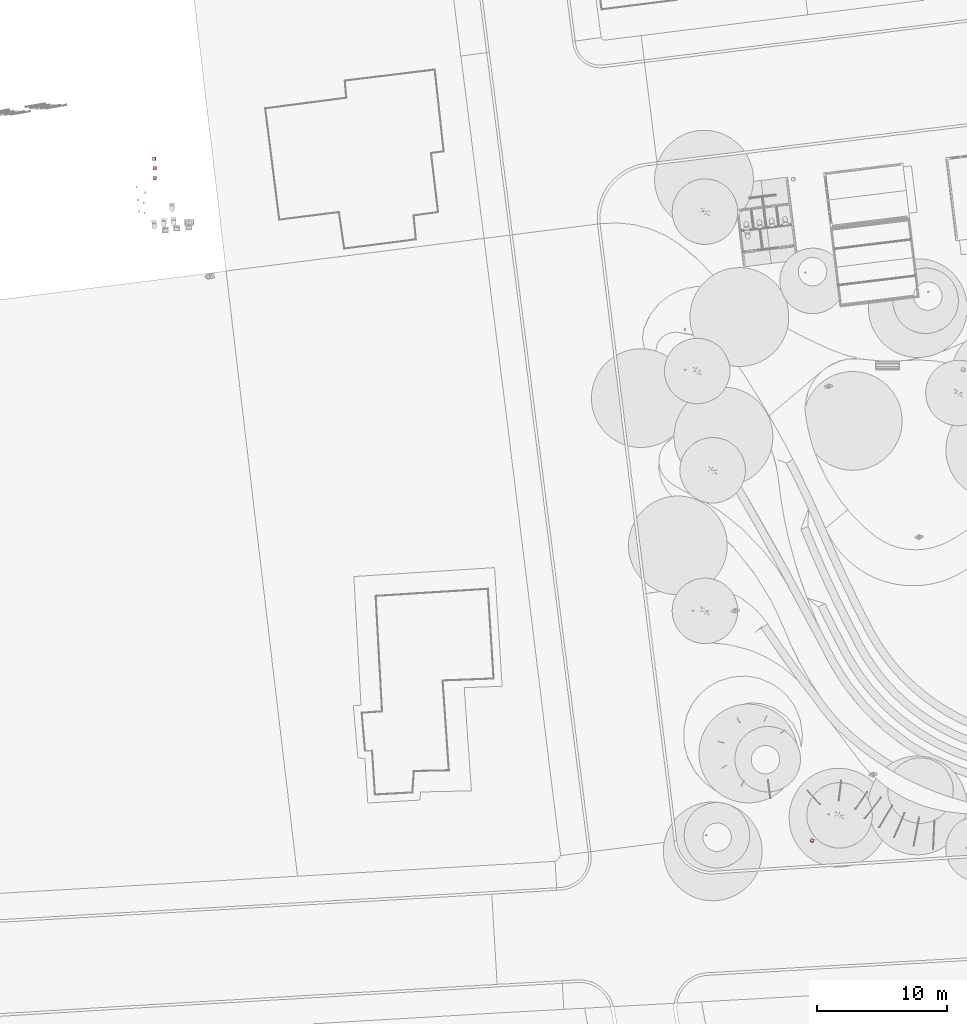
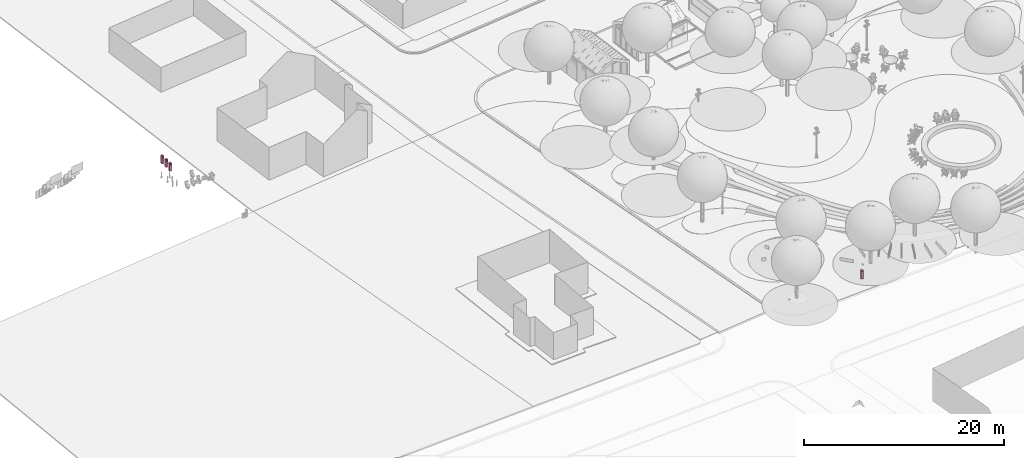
# One storey, part 56 of 75: 4 furnishings.
"""IFC2X3 building model written with IfcOpenShell, lengths in metres."""

from ifc_helpers import new_model, entity, si_unit, converted_unit, derived_unit, direction, frame, frame_2d, origin, origin_2d_with_axis, place, context, subcontext, project, spatial, polyline, circle_curve, parameter, trimmed, segment, composite_curve, rectangle, circle, hollow_circle, outline, extrude, source, transform, mapped, material, material_list, type_object, type_shapes, element, save


model = new_model("IFC2X3")

# Units and contexts
model_context = context("Model", 3, precision=1e-05, world=origin(), true_north=direction((6.123031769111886e-17, 1.0)))
body_context = subcontext(model_context, "Body", "Model", "MODEL_VIEW")
ifc_project = project(units=[si_unit("LENGTHUNIT", "METRE"), si_unit("AREAUNIT", "SQUARE_METRE"), si_unit("VOLUMEUNIT", "CUBIC_METRE"), converted_unit("PLANEANGLEUNIT", "DEGREE", entity("IfcRatioMeasure", 0.017453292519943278), si_unit("PLANEANGLEUNIT", "RADIAN"), dimensions=[0, 0, 0, 0, 0, 0, 0]), si_unit("MASSUNIT", "GRAM", prefix="KILO"), derived_unit("MASSDENSITYUNIT", [(si_unit("MASSUNIT", "GRAM", prefix="KILO"), 1), (si_unit("LENGTHUNIT", "METRE"), -3)]), derived_unit("IONCONCENTRATIONUNIT", [(si_unit("MASSUNIT", "GRAM", prefix="KILO"), 1), (si_unit("LENGTHUNIT", "METRE"), -3)]), derived_unit("MOMENTOFINERTIAUNIT", [(si_unit("LENGTHUNIT", "METRE"), 4)]), si_unit("TIMEUNIT", "SECOND"), si_unit("FREQUENCYUNIT", "HERTZ"), si_unit("THERMODYNAMICTEMPERATUREUNIT", "DEGREE_CELSIUS"), derived_unit("THERMALTRANSMITTANCEUNIT", [(si_unit("MASSUNIT", "GRAM", prefix="KILO"), 1), (si_unit("THERMODYNAMICTEMPERATUREUNIT", "KELVIN"), -1), (si_unit("TIMEUNIT", "SECOND"), -3)]), derived_unit("THERMALCONDUCTANCEUNIT", [(si_unit("MASSUNIT", "GRAM", prefix="KILO"), 1), (si_unit("THERMODYNAMICTEMPERATUREUNIT", "KELVIN"), -1), (si_unit("TIMEUNIT", "SECOND"), -3), (si_unit("LENGTHUNIT", "METRE"), 1)]), derived_unit("VOLUMETRICFLOWRATEUNIT", [(si_unit("LENGTHUNIT", "METRE"), 3), (si_unit("TIMEUNIT", "SECOND"), -1)]), derived_unit("MASSFLOWRATEUNIT", [(si_unit("MASSUNIT", "GRAM", prefix="KILO"), 1), (si_unit("TIMEUNIT", "SECOND"), -1)]), derived_unit("ROTATIONALFREQUENCYUNIT", [(si_unit("TIMEUNIT", "SECOND"), -1)]), si_unit("ELECTRICCURRENTUNIT", "AMPERE"), si_unit("ELECTRICVOLTAGEUNIT", "VOLT"), si_unit("POWERUNIT", "WATT"), si_unit("FORCEUNIT", "NEWTON", prefix="KILO"), si_unit("ILLUMINANCEUNIT", "LUX"), si_unit("LUMINOUSFLUXUNIT", "LUMEN"), si_unit("LUMINOUSINTENSITYUNIT", "CANDELA"), derived_unit("USERDEFINED", [(si_unit("MASSUNIT", "GRAM", prefix="KILO"), -1), (si_unit("LENGTHUNIT", "METRE"), -2), (si_unit("TIMEUNIT", "SECOND"), 3), (si_unit("LUMINOUSFLUXUNIT", "LUMEN"), 1)]), derived_unit("USERDEFINED", [(si_unit("MASSUNIT", "GRAM", prefix="KILO"), 1), (si_unit("TIMEUNIT", "SECOND"), -3), (si_unit("LENGTHUNIT", "METRE"), 3), (si_unit("ELECTRICCURRENTUNIT", "AMPERE"), -2)]), derived_unit("SOUNDPOWERUNIT", [(si_unit("MASSUNIT", "GRAM", prefix="KILO"), 1), (si_unit("TIMEUNIT", "SECOND"), -3), (si_unit("LENGTHUNIT", "METRE"), 2)]), derived_unit("SOUNDPRESSUREUNIT", [(si_unit("MASSUNIT", "GRAM", prefix="KILO"), 1), (si_unit("LENGTHUNIT", "METRE"), -1), (si_unit("TIMEUNIT", "SECOND"), -2)]), derived_unit("LINEARVELOCITYUNIT", [(si_unit("LENGTHUNIT", "METRE"), 1), (si_unit("TIMEUNIT", "SECOND"), -1)]), si_unit("PRESSUREUNIT", "PASCAL"), derived_unit("USERDEFINED", [(si_unit("MASSUNIT", "GRAM", prefix="KILO"), 1), (si_unit("LENGTHUNIT", "METRE"), -2), (si_unit("TIMEUNIT", "SECOND"), -2)]), derived_unit("LINEARFORCEUNIT", [(si_unit("MASSUNIT", "GRAM", prefix="KILO"), 1), (si_unit("TIMEUNIT", "SECOND"), -2)]), derived_unit("PLANARFORCEUNIT", [(si_unit("MASSUNIT", "GRAM", prefix="KILO"), 1), (si_unit("LENGTHUNIT", "METRE"), -1), (si_unit("TIMEUNIT", "SECOND"), -2)]), derived_unit("SPECIFICHEATCAPACITYUNIT", [(si_unit("THERMODYNAMICTEMPERATUREUNIT", "KELVIN"), -1), (si_unit("LENGTHUNIT", "METRE"), 2), (si_unit("TIMEUNIT", "SECOND"), -2)]), derived_unit("HEATINGVALUEUNIT", [(si_unit("LENGTHUNIT", "METRE"), 2), (si_unit("TIMEUNIT", "SECOND"), -2)]), derived_unit("VAPORPERMEABILITYUNIT", [(si_unit("LENGTHUNIT", "METRE"), -1), (si_unit("TIMEUNIT", "SECOND"), 1)]), derived_unit("DYNAMICVISCOSITYUNIT", [(si_unit("MASSUNIT", "GRAM", prefix="KILO"), 1), (si_unit("TIMEUNIT", "SECOND"), -1), (si_unit("LENGTHUNIT", "METRE"), -1)]), derived_unit("THERMALEXPANSIONCOEFFICIENTUNIT", [(si_unit("THERMODYNAMICTEMPERATUREUNIT", "KELVIN"), -1)]), derived_unit("MODULUSOFELASTICITYUNIT", [(si_unit("MASSUNIT", "GRAM", prefix="KILO"), 1), (si_unit("LENGTHUNIT", "METRE"), -1), (si_unit("TIMEUNIT", "SECOND"), -2)]), derived_unit("ISOTHERMALMOISTURECAPACITYUNIT", [(si_unit("LENGTHUNIT", "METRE"), 3), (si_unit("MASSUNIT", "GRAM", prefix="KILO"), -1)]), derived_unit("MOISTUREDIFFUSIVITYUNIT", [(si_unit("TIMEUNIT", "SECOND"), -1), (si_unit("LENGTHUNIT", "METRE"), 2)])], contexts=[model_context])

# Site, building, storey
site_placement = place(None, origin())
site = spatial("IfcSite", under=ifc_project, at=site_placement, Name="Default", CompositionType="ELEMENT")
building_placement = place(site_placement, origin())
building = spatial("IfcBuilding", under=site, at=building_placement, Name="Projeto", CompositionType="ELEMENT")
storey_placement = place(building_placement, origin())
storey = spatial("IfcBuildingStorey", under=building, at=storey_placement, Name="Nível 1", CompositionType="ELEMENT", Elevation=0.0)

# Furnishings
ifc_material_1 = material(Name="Metal")
ifc_material_2 = material(Name="Aço")
ifc_material_3 = material(Name="Metal(1)")
ifc_material_list = material_list([ifc_material_1, ifc_material_2, ifc_material_3])
furniture_type = type_object("IfcFurnitureType", Name="CS110:Lixeira Simples", material=ifc_material_list)
shared_shape = source(origin(), body_context, "Body", "SweptSolid", [
    extrude(rectangle(XDim=0.2552463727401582, YDim=0.25525227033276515, at=origin_2d_with_axis()), frame((0.011098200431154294, -0.014615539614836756, 0.00010118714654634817), z_axis=(0.0, 0.0, 1.0), x_axis=(0.0, 1.0, 0.0)), (0.0, 0.0, 1.0), 0.007939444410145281),
    extrude(rectangle(XDim=0.002807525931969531, YDim=0.2600000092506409, at=origin_2d_with_axis()), frame((0.011160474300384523, -0.14364248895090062, 0.00010118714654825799), z_axis=(0.0, 0.0, 1.0), x_axis=(0.0, 1.0, 0.0)), (0.0, 0.0, 1.0), 0.04989880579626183),
    extrude(outline(composite_curve([segment(polyline([(-0.060169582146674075, -0.037278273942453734), (0.034778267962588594, -0.037278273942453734)]), True, "CONTINUOUS"), segment(trimmed(circle_curve(frame_2d((0.034786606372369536, -0.02900575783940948), x_axis=(0.0010079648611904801, 0.9999994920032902)), 0.00827252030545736), [parameter(180.00000000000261)], [parameter(270.0)], True, "PARAMETER"), True, "CONTINUOUS"), segment(polyline([(0.043059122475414, -0.029014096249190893), (0.04309787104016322, 0.009428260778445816)]), True, "CONTINUOUS"), segment(trimmed(circle_curve(frame_2d((0.03321966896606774, 0.009889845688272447), x_axis=(0.0010079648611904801, 0.9999994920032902)), 0.009888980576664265), [parameter(267.382402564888)], [parameter(340.61759743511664)], True, "PARAMETER"), True, "CONTINUOUS"), segment(polyline([(0.03651094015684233, 0.019215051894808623), (0.017262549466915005, 0.01923445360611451)]), True, "CONTINUOUS"), segment(trimmed(circle_curve(frame_2d((0.01726467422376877, 0.02134241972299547), x_axis=(0.0010079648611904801, 0.9999994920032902)), 0.0021079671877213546), [parameter(90.00000000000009)], [parameter(180.00000000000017)], True, "PARAMETER"), False, "CONTINUOUS"), segment(polyline([(0.01515670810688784, 0.021344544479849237), (0.015165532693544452, 0.030099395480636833)]), True, "CONTINUOUS"), segment(trimmed(circle_curve(frame_2d((0.008470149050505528, 0.029878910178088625), x_axis=(0.0010079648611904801, 0.9999994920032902)), 0.006699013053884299), [parameter(271.94387463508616)], [parameter(90.00000000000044)], True, "PARAMETER"), True, "CONTINUOUS"), segment(polyline([(0.0017711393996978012, 0.02988566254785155), (0.0017536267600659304, 0.012511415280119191)]), True, "CONTINUOUS"), segment(trimmed(circle_curve(frame_2d((0.009863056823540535, 0.014226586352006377), x_axis=(0.0010079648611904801, 0.9999994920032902)), 0.008288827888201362), [parameter(102.00000000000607)], [parameter(179.99999999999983)], True, "PARAMETER"), True, "CONTINUOUS"), segment(polyline([(0.009854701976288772, 0.005937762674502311), (0.02310412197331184, 0.0059244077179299)]), True, "CONTINUOUS"), segment(trimmed(circle_curve(frame_2d((0.02310611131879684, 0.007898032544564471), x_axis=(0.0010079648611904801, 0.9999994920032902)), 0.0019736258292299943), [parameter(179.99999999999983)], [parameter(0.0)], True, "PARAMETER"), True, "CONTINUOUS"), segment(polyline([(0.02310810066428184, 0.009871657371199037), (0.009858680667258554, 0.009885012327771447)]), True, "CONTINUOUS"), segment(trimmed(circle_curve(frame_2d((0.009862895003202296, 0.014066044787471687), x_axis=(0.0010079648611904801, 0.9999994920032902)), 0.004181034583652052), [parameter(90.00000000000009)], [parameter(179.99999999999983)], True, "PARAMETER"), False, "CONTINUOUS"), segment(polyline([(0.005681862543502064, 0.0140702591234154), (0.005697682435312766, 0.02976513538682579)]), True, "CONTINUOUS"), segment(trimmed(circle_curve(frame_2d((0.008453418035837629, 0.02976235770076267), x_axis=(0.0010079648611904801, 0.9999994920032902)), 0.002755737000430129), [parameter(277.0844433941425)], [parameter(90.00000000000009)], True, "PARAMETER"), False, "CONTINUOUS"), segment(polyline([(0.011188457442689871, 0.030099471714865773), (0.011179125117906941, 0.020840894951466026)]), True, "CONTINUOUS"), segment(trimmed(circle_curve(frame_2d((0.017264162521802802, 0.020834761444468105), x_axis=(0.0010079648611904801, 0.9999994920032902)), 0.00608504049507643), [parameter(90.00000000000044)], [parameter(113.06722029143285)], True, "PARAMETER"), True, "CONTINUOUS"), segment(trimmed(circle_curve(frame_2d((0.016650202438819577, 0.02057403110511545), x_axis=(0.0010079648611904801, 0.9999994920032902)), 0.005418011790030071), [parameter(113.06722029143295)], [parameter(186.50383823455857)], True, "PARAMETER"), True, "CONTINUOUS"), segment(polyline([(0.017258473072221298, 0.015190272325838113), (0.03462911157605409, 0.01517276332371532)]), True, "CONTINUOUS"), segment(trimmed(circle_curve(frame_2d((0.034624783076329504, 0.010878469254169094), x_axis=(0.0010079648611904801, 0.9999994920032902)), 0.0042942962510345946), [parameter(269.9999999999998)], [parameter(0.0)], True, "PARAMETER"), False, "CONTINUOUS"), segment(polyline([(0.03891907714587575, 0.010874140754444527), (0.03887865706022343, -0.029226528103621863)]), True, "CONTINUOUS"), segment(trimmed(circle_curve(frame_2d((0.03478239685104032, -0.029222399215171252), x_axis=(0.0010079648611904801, 0.9999994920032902)), 0.004096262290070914), [parameter(180.00000000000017)], [parameter(269.99999999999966)], True, "PARAMETER"), False, "CONTINUOUS"), segment(polyline([(0.03477826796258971, -0.033318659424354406), (-0.06016958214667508, -0.033222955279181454)]), True, "CONTINUOUS"), segment(trimmed(circle_curve(frame_2d((-0.0601653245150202, -0.0289989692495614), x_axis=(0.0010079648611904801, 0.9999994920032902)), 0.004223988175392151), [parameter(0.0)], [parameter(179.99999999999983)], True, "PARAMETER"), False, "CONTINUOUS"), segment(polyline([(-0.06016106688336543, -0.024774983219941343), (-0.01262957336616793, -0.024822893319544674)]), True, "CONTINUOUS"), segment(trimmed(circle_curve(frame_2d((-0.01262154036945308, -0.01685337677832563), x_axis=(0.0010079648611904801, 0.9999994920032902)), 0.00796952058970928), [parameter(180.0000000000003)], [parameter(0.0)], True, "PARAMETER"), True, "CONTINUOUS"), segment(polyline([(-0.012613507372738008, -0.008883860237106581), (-0.06016958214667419, -0.008835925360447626)]), True, "CONTINUOUS"), segment(trimmed(circle_curve(frame_2d((-0.060165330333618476, -0.0046177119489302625), x_axis=(0.0010079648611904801, 0.9999994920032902)), 0.004218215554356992), [parameter(352.41126188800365)], [parameter(179.99999999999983)], True, "PARAMETER"), False, "CONTINUOUS"), segment(polyline([(-0.05960405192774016, -0.00043700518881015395), (0.023438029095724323, -0.000520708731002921)]), True, "CONTINUOUS"), segment(trimmed(circle_curve(frame_2d((0.023440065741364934, 0.0014998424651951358), x_axis=(0.0010079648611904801, 0.9999994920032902)), 0.002020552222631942), [parameter(179.99999999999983)], [parameter(0.0)], True, "PARAMETER"), True, "CONTINUOUS"), segment(polyline([(0.02344210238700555, 0.003520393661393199), (-0.06015295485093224, 0.003604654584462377)]), True, "CONTINUOUS"), segment(trimmed(circle_curve(frame_2d((-0.0601612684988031, -0.004643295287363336), x_axis=(0.0010079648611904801, 0.9999994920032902)), 0.008247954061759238), [parameter(4.579998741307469e-13)], [parameter(179.99999999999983)], True, "PARAMETER"), True, "CONTINUOUS"), segment(polyline([(-0.06016958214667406, -0.01289124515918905), (-0.012617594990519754, -0.01293917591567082)]), True, "CONTINUOUS"), segment(trimmed(circle_curve(frame_2d((-0.012621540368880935, -0.016853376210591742), x_axis=(0.0010079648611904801, 0.9999994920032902)), 0.003914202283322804), [parameter(180.00000000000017)], [parameter(0.0)], True, "PARAMETER"), False, "CONTINUOUS"), segment(polyline([(-0.012625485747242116, -0.020767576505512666), (-0.06015289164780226, -0.02071967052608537)]), True, "CONTINUOUS"), segment(trimmed(circle_curve(frame_2d((-0.06016118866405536, -0.028951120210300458), x_axis=(0.0010079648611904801, 0.9999994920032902)), 0.008231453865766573), [parameter(4.579998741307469e-13)], [parameter(180.00000000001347)], True, "PARAMETER"), True, "CONTINUOUS")], self_intersect=False)), frame((0.001275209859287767, -0.14639667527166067, 0.615086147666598), z_axis=(0.0, 1.0, 0.0), x_axis=(0.0010079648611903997, 0.0, 0.9999994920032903)), (0.0, 0.0, 1.0), 0.0011340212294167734),
    extrude(circle(Radius=0.0027431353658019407, at=origin_2d_with_axis()), frame((0.04600933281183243, -0.14639667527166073, 0.5878105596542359), z_axis=(0.0, 1.0, 0.0), x_axis=(1.0, 0.0, 0.0)), (0.0, 0.0, 1.0), 0.0011340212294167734),
    extrude(outline(composite_curve([segment(trimmed(circle_curve(frame_2d((-0.010133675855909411, 0.016442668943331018), x_axis=(1.0, 0.0)), 0.009242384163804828), [parameter(90.0000000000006)], [parameter(185.99999999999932)], True, "PARAMETER"), True, "CONTINUOUS"), segment(polyline([(-0.019325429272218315, 0.01547657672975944), (-0.01932542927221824, -0.029209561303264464)]), True, "CONTINUOUS"), segment(polyline([(-0.01932542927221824, -0.029209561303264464), (-0.019325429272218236, -0.03241102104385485)]), True, "CONTINUOUS"), segment(polyline([(-0.019325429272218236, -0.03241102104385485), (-0.015290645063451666, -0.03241102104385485)]), True, "CONTINUOUS"), segment(polyline([(-0.015290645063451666, -0.03241102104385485), (-0.015290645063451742, 0.015330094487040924)]), True, "CONTINUOUS"), segment(trimmed(circle_curve(frame_2d((-0.009942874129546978, 0.01628766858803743), x_axis=(1.0, 0.0)), 0.005432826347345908), [parameter(85.15785050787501)], [parameter(190.15182061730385)], True, "PARAMETER"), False, "CONTINUOUS"), segment(polyline([(-0.009484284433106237, 0.021701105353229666), (0.013416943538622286, 0.021701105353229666)]), True, "CONTINUOUS"), segment(trimmed(circle_curve(frame_2d((0.013416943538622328, 0.016993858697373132), x_axis=(1.0, 0.0)), 0.004707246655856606), [parameter(354.000000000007)], [parameter(90.0000000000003)], True, "PARAMETER"), False, "CONTINUOUS"), segment(polyline([(0.01809840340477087, 0.016501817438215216), (0.018098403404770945, -0.03241102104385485)]), True, "CONTINUOUS"), segment(polyline([(0.018098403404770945, -0.03241102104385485), (0.022216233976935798, -0.03241102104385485)]), True, "CONTINUOUS"), segment(polyline([(0.022216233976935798, -0.03241102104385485), (0.022185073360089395, 0.016772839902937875)]), True, "CONTINUOUS"), segment(trimmed(circle_curve(frame_2d((0.012847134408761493, 0.01643371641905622), x_axis=(1.0, 0.0)), 0.009344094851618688), [parameter(2.079881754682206)], [parameter(81.92011824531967)], True, "PARAMETER"), True, "CONTINUOUS"), segment(polyline([(0.014160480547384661, 0.02568505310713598), (-0.010133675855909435, 0.02568505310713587)]), True, "CONTINUOUS")], self_intersect=False)), frame((0.035797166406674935, -0.14639667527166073, 0.5721260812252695), z_axis=(0.0, 1.0, 0.0), x_axis=(1.0, 0.0, 0.0)), (0.0, 0.0, 1.0), 0.0011340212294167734),
    extrude(circle(Radius=0.0025582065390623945, at=origin_2d_with_axis()), frame((0.041513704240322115, -0.14639667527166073, 0.6113820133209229), z_axis=(0.0, 1.0, 0.0), x_axis=(1.0, 0.0, 0.0)), (0.0, 0.0, 1.0), 0.0011340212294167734),
    extrude(circle(Radius=0.002777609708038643, at=origin_2d_with_axis()), frame((0.032157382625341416, -0.14639667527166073, 0.6004056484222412), z_axis=(0.0, 1.0, 0.0), x_axis=(1.0, 0.0, 0.0)), (0.0, 0.0, 1.0), 0.0011340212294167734),
    extrude(circle(Radius=0.0027551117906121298, at=origin_2d_with_axis()), frame((0.04151368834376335, -0.14639667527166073, 0.5608417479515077), z_axis=(0.0, 1.0, 0.0), x_axis=(1.0, 0.0, 0.0)), (0.0, 0.0, 1.0), 0.0011340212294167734),
    extrude(hollow_circle(Radius=0.013154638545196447, WallThickness=0.004019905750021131, at=frame_2d((0.0, -1.353583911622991e-16), x_axis=(1.0, 0.0))), frame((-0.015491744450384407, -0.14639667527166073, 0.6757249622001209), z_axis=(0.0, 1.0, 0.0), x_axis=(1.0, 0.0, 0.0)), (0.0, 0.0, 1.0), 0.0011340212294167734),
    extrude(outline(polyline([(-0.0190625, -0.1276231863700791), (0.0190625, -0.1276231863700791), (0.0190625, 0.1276231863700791), (-0.0190625, 0.12762318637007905), (-0.0190625, -0.1276231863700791)]), holes=[composite_curve([segment(trimmed(circle_curve(frame_2d((-0.001551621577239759, -0.08906790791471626), x_axis=(-1.0, 0.0)), 0.0057793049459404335), [parameter(3.5622212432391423e-13)], [parameter(179.99999999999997)], True, "PARAMETER"), False, "CONTINUOUS"), segment(trimmed(circle_curve(frame_2d((-0.001551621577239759, -0.08906790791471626), x_axis=(-1.0, 0.0)), 0.0057793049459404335), [parameter(179.99999999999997)], [parameter(0.0)], True, "PARAMETER"), False, "CONTINUOUS")], self_intersect=False), composite_curve([segment(trimmed(circle_curve(frame_2d((-0.0015516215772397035, -0.05906790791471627), x_axis=(-1.0, 0.0)), 0.0057793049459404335), [parameter(3.5622212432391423e-13)], [parameter(179.99999999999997)], True, "PARAMETER"), False, "CONTINUOUS"), segment(trimmed(circle_curve(frame_2d((-0.0015516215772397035, -0.05906790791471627), x_axis=(-1.0, 0.0)), 0.0057793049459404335), [parameter(179.99999999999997)], [parameter(0.0)], True, "PARAMETER"), False, "CONTINUOUS")], self_intersect=False), composite_curve([segment(trimmed(circle_curve(frame_2d((-0.0015516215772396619, -0.029396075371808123), x_axis=(-1.0, 0.0)), 0.0057793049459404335), [parameter(3.053332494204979e-13)], [parameter(180.0)], True, "PARAMETER"), False, "CONTINUOUS"), segment(trimmed(circle_curve(frame_2d((-0.0015516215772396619, -0.029396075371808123), x_axis=(-1.0, 0.0)), 0.0057793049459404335), [parameter(180.0)], [parameter(0.0)], True, "PARAMETER"), False, "CONTINUOUS")], self_intersect=False), composite_curve([segment(trimmed(circle_curve(frame_2d((-0.0015516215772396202, 0.0006039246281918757), x_axis=(-1.0, 0.0)), 0.0057793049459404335), [parameter(3.053332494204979e-13)], [parameter(180.0)], True, "PARAMETER"), False, "CONTINUOUS"), segment(trimmed(circle_curve(frame_2d((-0.0015516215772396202, 0.0006039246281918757), x_axis=(-1.0, 0.0)), 0.0057793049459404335), [parameter(180.0)], [parameter(0.0)], True, "PARAMETER"), False, "CONTINUOUS")], self_intersect=False), composite_curve([segment(trimmed(circle_curve(frame_2d((-0.0015516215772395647, 0.030932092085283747), x_axis=(-1.0, 0.0)), 0.0057793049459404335), [parameter(2.544443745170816e-13)], [parameter(179.9999999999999)], True, "PARAMETER"), False, "CONTINUOUS"), segment(trimmed(circle_curve(frame_2d((-0.0015516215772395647, 0.030932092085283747), x_axis=(-1.0, 0.0)), 0.0057793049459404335), [parameter(179.9999999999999)], [parameter(359.9999999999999)], True, "PARAMETER"), False, "CONTINUOUS")], self_intersect=False), composite_curve([segment(trimmed(circle_curve(frame_2d((-0.001551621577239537, 0.06060392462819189), x_axis=(-1.0, 0.0)), 0.0057793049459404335), [parameter(5.088887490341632e-13)], [parameter(179.99999999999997)], True, "PARAMETER"), False, "CONTINUOUS"), segment(trimmed(circle_curve(frame_2d((-0.001551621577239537, 0.06060392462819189), x_axis=(-1.0, 0.0)), 0.0057793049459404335), [parameter(179.99999999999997)], [parameter(359.99999999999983)], True, "PARAMETER"), False, "CONTINUOUS")], self_intersect=False), composite_curve([segment(trimmed(circle_curve(frame_2d((-0.0015516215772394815, 0.09060392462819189), x_axis=(-1.0, 0.0)), 0.0057793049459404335), [parameter(3.5622212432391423e-13)], [parameter(180.00000000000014)], True, "PARAMETER"), False, "CONTINUOUS"), segment(trimmed(circle_curve(frame_2d((-0.0015516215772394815, 0.09060392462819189), x_axis=(-1.0, 0.0)), 0.0057793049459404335), [parameter(180.00000000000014)], [parameter(0.0)], True, "PARAMETER"), False, "CONTINUOUS")], self_intersect=False)]), frame((0.11966183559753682, -0.014615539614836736, 0.9407100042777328), z_axis=(0.0, 0.0, 1.0), x_axis=(-1.0, 0.0, 0.0)), (0.0, 0.0, 1.0), 0.0024447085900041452),
    extrude(rectangle(XDim=0.2148156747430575, YDim=0.2552463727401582, at=frame_2d((0.0, -2.7755575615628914e-17), x_axis=(1.0, 0.0))), frame((-0.00912009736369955, -0.014615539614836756, 0.9740841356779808), z_axis=(0.0, 0.0, 1.0), x_axis=(-1.0, 0.0, 0.0)), (0.0, 0.0, 1.0), 0.005915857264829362),
    extrude(rectangle(XDim=0.2552463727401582, YDim=0.0023115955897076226, at=origin_2d_with_axis()), frame((0.13988013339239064, -0.014615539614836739, 0.00010118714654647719), z_axis=(0.0, 0.0, 1.0), x_axis=(0.0, 1.0, 0.0)), (0.0, 0.0, 1.0), 0.9430535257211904),
    extrude(rectangle(XDim=0.2552463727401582, YDim=0.0023115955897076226, at=origin_2d_with_axis()), frame((0.099443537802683, -0.014615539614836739, 0.049999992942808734), z_axis=(0.0, 0.0, 1.0), x_axis=(0.0, 1.0, 0.0)), (0.0, 0.0, 1.0), 0.93),
    extrude(rectangle(XDim=0.2552463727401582, YDim=0.0023115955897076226, at=origin_2d_with_axis()), frame((-0.1176837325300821, -0.014615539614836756, 0.00010118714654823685), z_axis=(0.0, 0.0, 1.0), x_axis=(0.0, 1.0, 0.0)), (0.0, 0.0, 1.0), 0.9798988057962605),
    extrude(outline(polyline([(-0.3389662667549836, 0.05999034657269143), (-0.3389662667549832, -0.15985615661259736), (0.6409325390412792, -0.15985615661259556), (0.6409325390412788, 0.09986581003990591), (-0.3019662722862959, 0.09986581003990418), (-0.30196627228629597, 0.05999034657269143), (-0.3389662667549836, 0.05999034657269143)])), frame((0.0411701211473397, 0.11300764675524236, 0.6410337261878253), z_axis=(0.0, -1.0, 0.0), x_axis=(0.0, 0.0, -1.0)), (0.0, 0.0, -1.0), 0.0019326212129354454),
    extrude(outline(polyline([(-0.32233333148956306, 0.059999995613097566), (-0.3223333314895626, -0.16000000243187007), (0.6076666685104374, -0.16000000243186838), (0.6076666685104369, 0.1000000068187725), (-0.285333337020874, 0.10000000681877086), (-0.28533333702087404, 0.059999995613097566), (-0.32233333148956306, 0.059999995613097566)]), holes=[composite_curve([segment(trimmed(circle_curve(frame_2d((-0.1708908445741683, -0.033309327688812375), x_axis=(0.0, 1.0)), 0.08999999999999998), [parameter(3.5622212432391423e-13)], [parameter(179.99999999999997)], True, "PARAMETER"), False, "CONTINUOUS"), segment(trimmed(circle_curve(frame_2d((-0.1708908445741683, -0.033309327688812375), x_axis=(0.0, 1.0)), 0.08999999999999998), [parameter(179.99999999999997)], [parameter(0.0)], True, "PARAMETER"), False, "CONTINUOUS")], self_intersect=False)]), frame((0.041160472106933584, -0.1450462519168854, 0.6576666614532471), z_axis=(0.0, -1.0, 0.0), x_axis=(0.0, 0.0, -1.0)), (0.0, 0.0, -1.0), 0.002807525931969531),
])
type_shapes(furniture_type, [shared_shape])
for number, where, name in (
    (1, (-63.36524957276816, 32.79154664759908, 0.0), "CS110:Lixeira Simples"),
    (2, (-63.36950680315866, 33.53142912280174, 0.0), "CS110:Lixeira Simples"),
    (3, (-63.410817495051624, 34.26680473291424, 0.0), "CS110:Lixeira Simples"),
):
    element("IfcFurnishingElement", number, at=place(storey_placement, frame(where)), inside=storey, type_object=furniture_type, material=ifc_material_list, Name=name, ObjectType="CS110:Lixeira Simples", context=body_context, shape_type="MappedRepresentation", body=[
        mapped(shared_shape, transform((0.0, 0.0, 0.0), scale=1.0)),
    ])
furnishing_placement = place(storey_placement, frame((-12.850788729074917, -18.095275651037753, 0.0), z_axis=(0.0, 0.0, 1.0), x_axis=(-0.38971966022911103, -0.9209335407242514, 0.0)))
element("IfcFurnishingElement", 4, at=furnishing_placement, inside=storey, type_object=furniture_type, material=ifc_material_list, Name="CS110:Lixeira Simples", ObjectType="CS110:Lixeira Simples", context=body_context, shape_type="MappedRepresentation", body=[
    mapped(shared_shape, transform((0.0, 0.0, 0.0), scale=1.0)),
])

save(model, "model.ifc")
